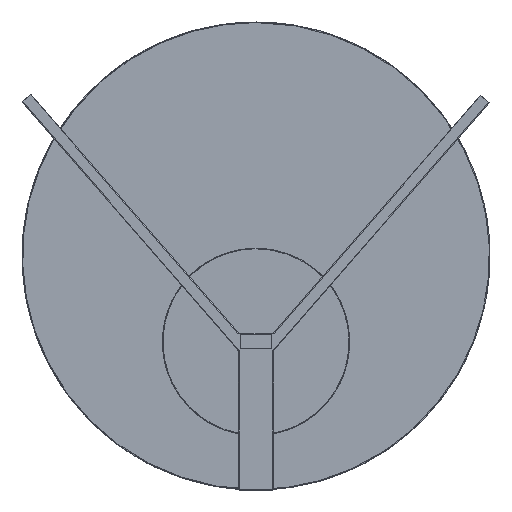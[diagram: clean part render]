
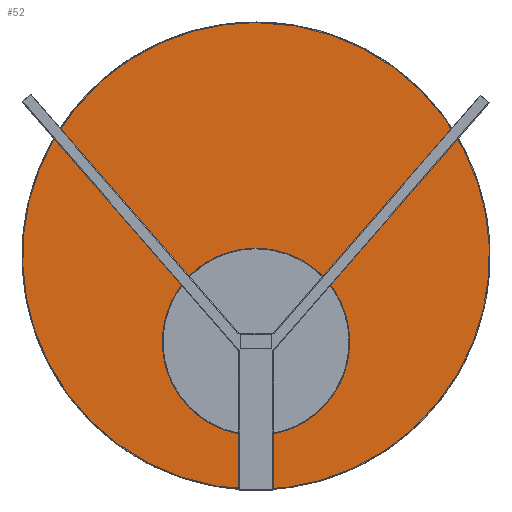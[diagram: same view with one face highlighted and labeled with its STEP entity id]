
A CAD part, front view. The second image highlights one B-rep face of the part: STEP entity #52.
In plain terms, the highlighted planar face has unit normal (0, -1, 0).
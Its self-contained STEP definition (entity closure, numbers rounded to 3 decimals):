
#52=ADVANCED_FACE('',(#172),#1606,.T.);
#172=FACE_OUTER_BOUND('',#292,.T.);
#292=EDGE_LOOP('',(#422,#423));
#422=ORIENTED_EDGE('',*,*,#933,.F.);
#423=ORIENTED_EDGE('',*,*,#939,.F.);
#933=EDGE_CURVE('',#1465,#1466,#1329,.T.);
#939=EDGE_CURVE('',#1466,#1465,#1333,.T.);
#1329=(
BOUNDED_CURVE()
B_SPLINE_CURVE(2,(#2198,#2199,#2200,#2201,#2202),.UNSPECIFIED.,.F.,.F.)
B_SPLINE_CURVE_WITH_KNOTS((3,2,3),(-626.748,-313.374,
0.),.UNSPECIFIED.)
CURVE()
GEOMETRIC_REPRESENTATION_ITEM()
RATIONAL_B_SPLINE_CURVE((1.,0.707,1.,0.707,1.))
REPRESENTATION_ITEM('')
);
#1333=(
BOUNDED_CURVE()
B_SPLINE_CURVE(2,(#2220,#2221,#2222,#2223,#2224),.UNSPECIFIED.,.F.,.F.)
B_SPLINE_CURVE_WITH_KNOTS((3,2,3),(-626.748,-313.374,
0.),.UNSPECIFIED.)
CURVE()
GEOMETRIC_REPRESENTATION_ITEM()
RATIONAL_B_SPLINE_CURVE((1.,0.707,1.,0.707,1.))
REPRESENTATION_ITEM('')
);
#1465=VERTEX_POINT('',#2176);
#1466=VERTEX_POINT('',#2177);
#1606=PLANE('',#1746);
#1746=AXIS2_PLACEMENT_3D('',#1989,#1777,$);
#1777=DIRECTION('',(0.,-1.,0.));
#1989=CARTESIAN_POINT('',(-239.401,-5.,239.401));
#2176=CARTESIAN_POINT('',(0.,-5.,199.5));
#2177=CARTESIAN_POINT('',(0.,-5.,-199.5));
#2198=CARTESIAN_POINT('',(0.,-5.,199.5));
#2199=CARTESIAN_POINT('',(199.5,-5.,199.5));
#2200=CARTESIAN_POINT('',(199.5,-5.,0.));
#2201=CARTESIAN_POINT('',(199.5,-5.,-199.5));
#2202=CARTESIAN_POINT('',(0.,-5.,-199.5));
#2220=CARTESIAN_POINT('',(0.,-5.,-199.5));
#2221=CARTESIAN_POINT('',(-199.5,-5.,-199.5));
#2222=CARTESIAN_POINT('',(-199.5,-5.,0.));
#2223=CARTESIAN_POINT('',(-199.5,-5.,199.5));
#2224=CARTESIAN_POINT('',(0.,-5.,199.5));
